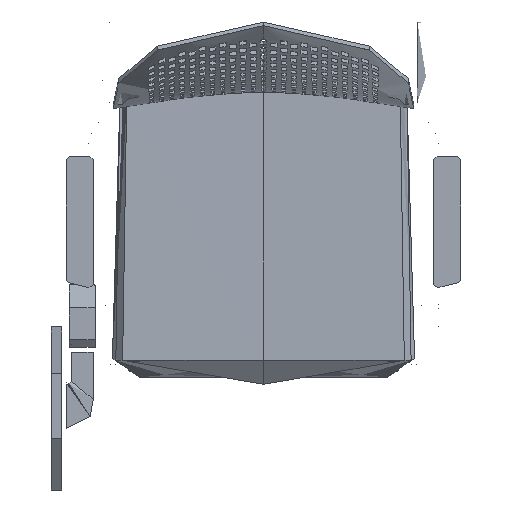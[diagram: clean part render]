
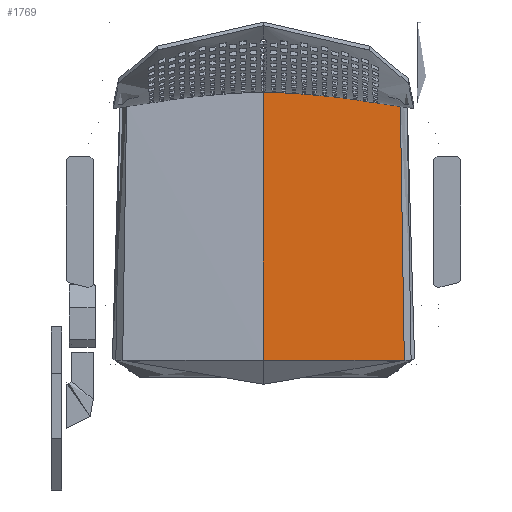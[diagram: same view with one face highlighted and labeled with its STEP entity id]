
A CAD part, top view. The second image highlights one B-rep face of the part: STEP entity #1769.
In plain terms, the highlighted free-form (B-spline) face has degree [3, 3] with [6, 4] control points.
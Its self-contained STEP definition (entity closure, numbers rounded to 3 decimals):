
#108=B_SPLINE_SURFACE_WITH_KNOTS('',3,3,((#61156,#61157,#61158,#61159),
(#61160,#61161,#61162,#61163),(#61164,#61165,#61166,#61167),(#61168,#61169,
#61170,#61171),(#61172,#61173,#61174,#61175),(#61176,#61177,#61178,#61179)),
 .UNSPECIFIED.,.F.,.F.,.F.,(4,1,1,4),(4,4),(47.607,192.091,
336.575,469.281),(0.,208.2),.UNSPECIFIED.);
#1769=ADVANCED_FACE('',(#2934),#108,.T.);
#2934=FACE_OUTER_BOUND('',#4551,.T.);
#4551=EDGE_LOOP('',(#11161,#11162,#11163,#11164,#11165));
#11161=ORIENTED_EDGE('',*,*,#14642,.T.);
#11162=ORIENTED_EDGE('',*,*,#14634,.F.);
#11163=ORIENTED_EDGE('',*,*,#14602,.T.);
#11164=ORIENTED_EDGE('',*,*,#14629,.F.);
#11165=ORIENTED_EDGE('',*,*,#14635,.F.);
#14602=EDGE_CURVE('',#20274,#20275,#17875,.T.);
#14629=EDGE_CURVE('',#20291,#20275,#17891,.T.);
#14634=EDGE_CURVE('',#20274,#20293,#17896,.T.);
#14635=EDGE_CURVE('',#20295,#20291,#17897,.T.);
#14642=EDGE_CURVE('',#20295,#20293,#18122,.T.);
#17875=B_SPLINE_CURVE_WITH_KNOTS('',3,(#62303,#62304,#62305,#62306,#62307,
#62308),.UNSPECIFIED.,.F.,.F.,(4,1,1,4),(-469.281,-336.575,
-192.091,-47.607),.UNSPECIFIED.);
#17891=B_SPLINE_CURVE_WITH_KNOTS('',3,(#62695,#62696,#62697,#62698),
 .UNSPECIFIED.,.F.,.F.,(4,4),(0.,208.2),.UNSPECIFIED.);
#17896=B_SPLINE_CURVE_WITH_KNOTS('',3,(#62767,#62768,#62769,#62770),
 .UNSPECIFIED.,.F.,.F.,(4,4),(0.,169.177),.UNSPECIFIED.);
#17897=B_SPLINE_CURVE_WITH_KNOTS('',3,(#62771,#62772,#62773,#62774,#62775),
 .UNSPECIFIED.,.F.,.F.,(4,1,4),(235.672,614.063,616.504),
 .UNSPECIFIED.);
#18122=(
BOUNDED_CURVE()
B_SPLINE_CURVE(3,(#62854,#62855,#62856,#62857,#62858,#62859,#62860,#62861,
#62862,#62863,#62864,#62865,#62866,#62867,#62868,#62869,#62870,#62871,#62872,
#62873),.UNSPECIFIED.,.F.,.F.)
B_SPLINE_CURVE_WITH_KNOTS((4,3,3,1,1,1,1,1,1,1,3,4),(-0.392,
-0.39,6.301,10.816,15.904,21.689,
28.102,34.77,41.018,46.433,51.07,
56.446),.UNSPECIFIED.)
CURVE()
GEOMETRIC_REPRESENTATION_ITEM()
RATIONAL_B_SPLINE_CURVE((1.,1.,1.,1.,1.,1.,1.,1.,1.,1.,1.,
1.,1.,1.,1.,1.,1.,1.,1.,1.))
REPRESENTATION_ITEM('')
);
#20274=VERTEX_POINT('',#62270);
#20275=VERTEX_POINT('',#62271);
#20291=VERTEX_POINT('',#62287);
#20293=VERTEX_POINT('',#62289);
#20295=VERTEX_POINT('',#62291);
#61156=CARTESIAN_POINT('',(207.61,-200.8,469.081));
#61157=CARTESIAN_POINT('',(138.406,-200.8,467.081));
#61158=CARTESIAN_POINT('',(69.203,-200.8,466.081));
#61159=CARTESIAN_POINT('',(0.,-200.8,466.081));
#61160=CARTESIAN_POINT('',(206.89,-154.314,468.31));
#61161=CARTESIAN_POINT('',(137.927,-164.428,466.478));
#61162=CARTESIAN_POINT('',(68.963,-169.485,465.562));
#61163=CARTESIAN_POINT('',(0.,-169.485,465.562));
#61164=CARTESIAN_POINT('',(205.45,-61.344,466.768));
#61165=CARTESIAN_POINT('',(136.967,-58.131,457.01));
#61166=CARTESIAN_POINT('',(68.483,-56.525,452.131));
#61167=CARTESIAN_POINT('',(0.,-56.525,452.131));
#61168=CARTESIAN_POINT('',(203.349,74.323,464.518));
#61169=CARTESIAN_POINT('',(135.566,87.116,455.076));
#61170=CARTESIAN_POINT('',(67.783,93.513,450.355));
#61171=CARTESIAN_POINT('',(0.,93.513,450.355));
#61172=CARTESIAN_POINT('',(201.968,163.504,463.038));
#61173=CARTESIAN_POINT('',(134.645,173.48,457.765));
#61174=CARTESIAN_POINT('',(67.323,178.468,455.129));
#61175=CARTESIAN_POINT('',(0.,178.468,455.129));
#61176=CARTESIAN_POINT('',(201.307,206.2,462.33));
#61177=CARTESIAN_POINT('',(134.204,212.878,459.041));
#61178=CARTESIAN_POINT('',(67.102,216.217,457.396));
#61179=CARTESIAN_POINT('',(0.,216.217,457.396));
#62270=CARTESIAN_POINT('',(0.,216.217,457.396));
#62271=CARTESIAN_POINT('',(0.,-200.8,466.081));
#62287=CARTESIAN_POINT('',(207.61,-200.8,469.081));
#62289=CARTESIAN_POINT('',(166.693,209.35,460.779));
#62291=CARTESIAN_POINT('',(201.765,176.772,462.819));
#62303=CARTESIAN_POINT('',(0.,216.217,457.396));
#62304=CARTESIAN_POINT('',(0.,178.468,455.129));
#62305=CARTESIAN_POINT('',(0.,93.513,450.355));
#62306=CARTESIAN_POINT('',(0.,-56.525,452.131));
#62307=CARTESIAN_POINT('',(0.,-169.485,465.562));
#62308=CARTESIAN_POINT('',(0.,-200.8,466.081));
#62695=CARTESIAN_POINT('',(207.61,-200.8,469.081));
#62696=CARTESIAN_POINT('',(138.406,-200.8,467.081));
#62697=CARTESIAN_POINT('',(69.203,-200.8,466.081));
#62698=CARTESIAN_POINT('',(0.,-200.8,466.081));
#62767=CARTESIAN_POINT('',(0.,216.217,457.396));
#62768=CARTESIAN_POINT('',(55.652,216.219,457.396));
#62769=CARTESIAN_POINT('',(111.239,213.917,458.528));
#62770=CARTESIAN_POINT('',(166.693,209.35,460.779));
#62771=CARTESIAN_POINT('',(201.765,176.772,462.819));
#62772=CARTESIAN_POINT('',(203.697,51.693,464.897));
#62773=CARTESIAN_POINT('',(205.651,-74.287,466.969));
#62774=CARTESIAN_POINT('',(207.595,-199.785,469.083));
#62775=CARTESIAN_POINT('',(207.61,-200.8,469.081));
#62854=CARTESIAN_POINT('',(201.765,176.772,462.819));
#62855=CARTESIAN_POINT('',(201.764,176.772,462.819));
#62856=CARTESIAN_POINT('',(201.763,176.772,462.819));
#62857=CARTESIAN_POINT('',(201.762,176.772,462.819));
#62858=CARTESIAN_POINT('',(199.541,176.811,462.669));
#62859=CARTESIAN_POINT('',(197.319,176.863,462.52));
#62860=CARTESIAN_POINT('',(195.1,176.969,462.373));
#62861=CARTESIAN_POINT('',(193.602,177.041,462.274));
#62862=CARTESIAN_POINT('',(190.422,177.258,462.064));
#62863=CARTESIAN_POINT('',(185.365,178.026,461.733));
#62864=CARTESIAN_POINT('',(179.891,179.81,461.385));
#62865=CARTESIAN_POINT('',(174.545,183.167,461.064));
#62866=CARTESIAN_POINT('',(170.339,188.106,460.842));
#62867=CARTESIAN_POINT('',(167.892,193.742,460.742));
#62868=CARTESIAN_POINT('',(166.881,199.09,460.725));
#62869=CARTESIAN_POINT('',(166.675,202.435,460.736));
#62870=CARTESIAN_POINT('',(166.633,203.979,460.744));
#62871=CARTESIAN_POINT('',(166.59,205.769,460.753));
#62872=CARTESIAN_POINT('',(166.606,207.562,460.765));
#62873=CARTESIAN_POINT('',(166.693,209.35,460.779));
